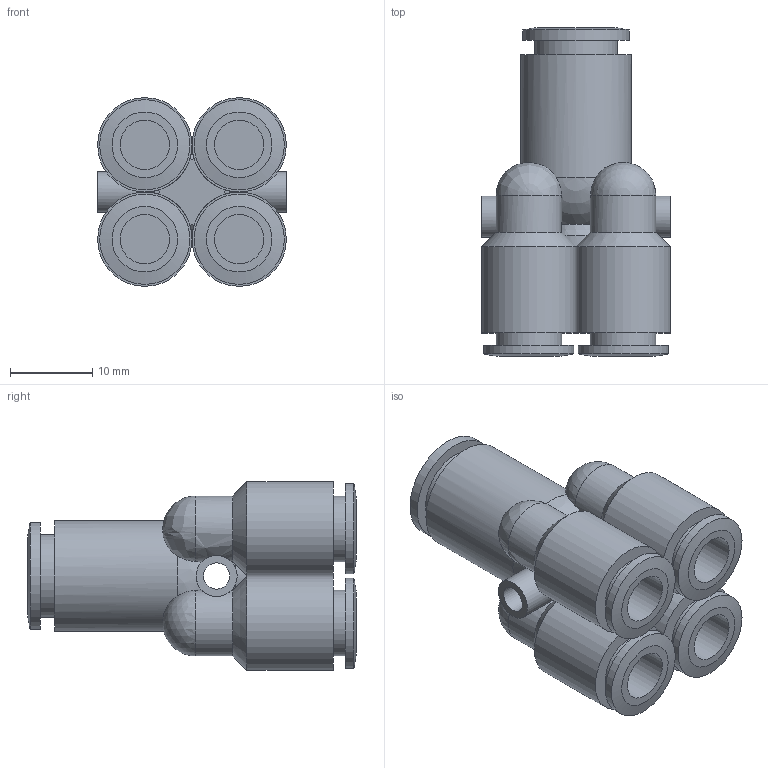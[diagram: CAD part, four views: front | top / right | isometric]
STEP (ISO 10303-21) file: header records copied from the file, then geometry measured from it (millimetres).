
FILE_DESCRIPTION((''),'2;1');
FILE_NAME('C:\Documents and Settings\rivolro1\Documenti\copia di Raccordi\PLASTICA\T24XXXX\T240608.stp','2007-11-02T15:05:26',('Rivolro1'),(''),'Autodesk Inventor 2008','Autodesk Inventor 2008','');
FILE_SCHEMA(('AUTOMOTIVE_DESIGN { 1 0 10303 214 1 1 1 1 }'));
Length unit declared in the file: millimetre
Products named in the file (1): T240608
Bounding box: 23 x 40 x 23 mm (x, y, z)
Volume: 8052.7 mm3; surface area: 6347 mm2
Topology: 1 solids, 1 shells, 77 faces, 208 edges, 126 vertices
Faces by surface type: bspline 27, cylinder 22, plane 15, cone 7, sphere 6
Full cylindrical faces by diameter (mm): 5 x2, 6 x2, 8 x5, 10.1 x1, 11 x2, 13 x1, 13.5 x1
Entity records: 3017 total; most frequent: CARTESIAN_POINT 1319, DIRECTION 322, ORIENTED_EDGE 316, EDGE_CURVE 158, AXIS2_PLACEMENT_3D 153, EDGE_LOOP 126, VERTEX_POINT 114, CIRCLE 102
